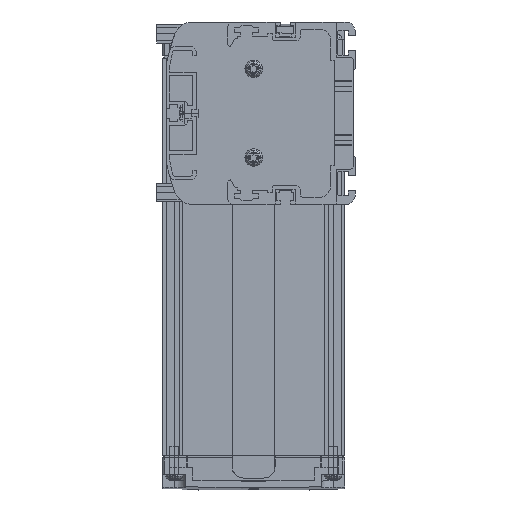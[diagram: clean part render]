
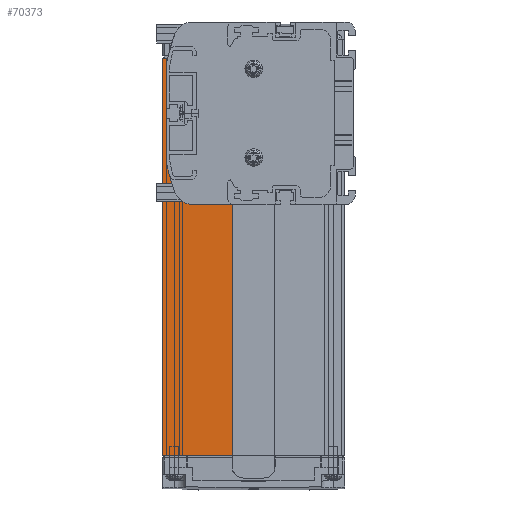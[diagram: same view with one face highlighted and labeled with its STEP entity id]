
A CAD part, left-side view. The second image highlights one B-rep face of the part: STEP entity #70373.
In plain terms, the highlighted planar face has unit normal (-1, 0, 0).
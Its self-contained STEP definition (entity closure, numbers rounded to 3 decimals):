
#68314=DIRECTION('',(0.,0.,1.));
#68315=VECTOR('',#68314,51.);
#68316=CARTESIAN_POINT('',(3.,70.5,-27.5));
#68317=LINE('',#68316,#68315);
#68963=DIRECTION('',(0.,0.,1.));
#68964=VECTOR('',#68963,170.);
#68965=CARTESIAN_POINT('',(3.,82.5,-146.5));
#68966=LINE('',#68965,#68964);
#68981=DIRECTION('',(0.,-1.,0.));
#68982=VECTOR('',#68981,29.9);
#68983=CARTESIAN_POINT('',(3.,82.5,-146.5));
#68984=LINE('',#68983,#68982);
#68985=DIRECTION('',(0.,1.,0.));
#68986=VECTOR('',#68985,12.);
#68987=CARTESIAN_POINT('',(3.,70.5,23.5));
#68988=LINE('',#68987,#68986);
#68989=DIRECTION('',(0.,1.,0.));
#68990=VECTOR('',#68989,17.9);
#68991=CARTESIAN_POINT('',(3.,52.6,-27.5));
#68992=LINE('',#68991,#68990);
#69099=DIRECTION('',(0.,0.,1.));
#69100=VECTOR('',#69099,119.);
#69101=CARTESIAN_POINT('',(3.,52.6,-146.5));
#69102=LINE('',#69101,#69100);
#69186=CARTESIAN_POINT('',(3.,70.5,23.5));
#69188=VERTEX_POINT('',#69186);
#69280=CARTESIAN_POINT('',(3.,82.5,23.5));
#69281=VERTEX_POINT('',#69280);
#69354=CARTESIAN_POINT('',(3.,82.5,-146.5));
#69355=VERTEX_POINT('',#69354);
#69356=CARTESIAN_POINT('',(3.,52.6,-146.5));
#69357=VERTEX_POINT('',#69356);
#69418=CARTESIAN_POINT('',(3.,70.5,-27.5));
#69419=VERTEX_POINT('',#69418);
#69420=CARTESIAN_POINT('',(3.,52.6,-27.5));
#69421=VERTEX_POINT('',#69420);
#70358=CARTESIAN_POINT('',(3.,67.55,-61.5));
#70359=DIRECTION('',(1.,0.,0.));
#70360=DIRECTION('',(0.,1.,0.));
#70361=AXIS2_PLACEMENT_3D('',#70358,#70359,#70360);
#70362=PLANE('',#70361);
#70363=ORIENTED_EDGE('',*,*,#69604,.F.);
#70365=ORIENTED_EDGE('',*,*,#70364,.F.);
#70367=ORIENTED_EDGE('',*,*,#70366,.F.);
#70368=ORIENTED_EDGE('',*,*,#69932,.F.);
#70369=ORIENTED_EDGE('',*,*,#70346,.T.);
#70370=ORIENTED_EDGE('',*,*,#69473,.F.);
#70371=EDGE_LOOP('',(#70363,#70365,#70367,#70368,#70369,#70370));
#70372=FACE_OUTER_BOUND('',#70371,.F.);
#70373=ADVANCED_FACE('',(#70372),#70362,.F.);
#69473=EDGE_CURVE('',#69188,#69281,#68988,.T.);
#69604=EDGE_CURVE('',#69419,#69188,#68317,.T.);
#69932=EDGE_CURVE('',#69355,#69357,#68984,.T.);
#70346=EDGE_CURVE('',#69355,#69281,#68966,.T.);
#70364=EDGE_CURVE('',#69421,#69419,#68992,.T.);
#70366=EDGE_CURVE('',#69357,#69421,#69102,.T.);
